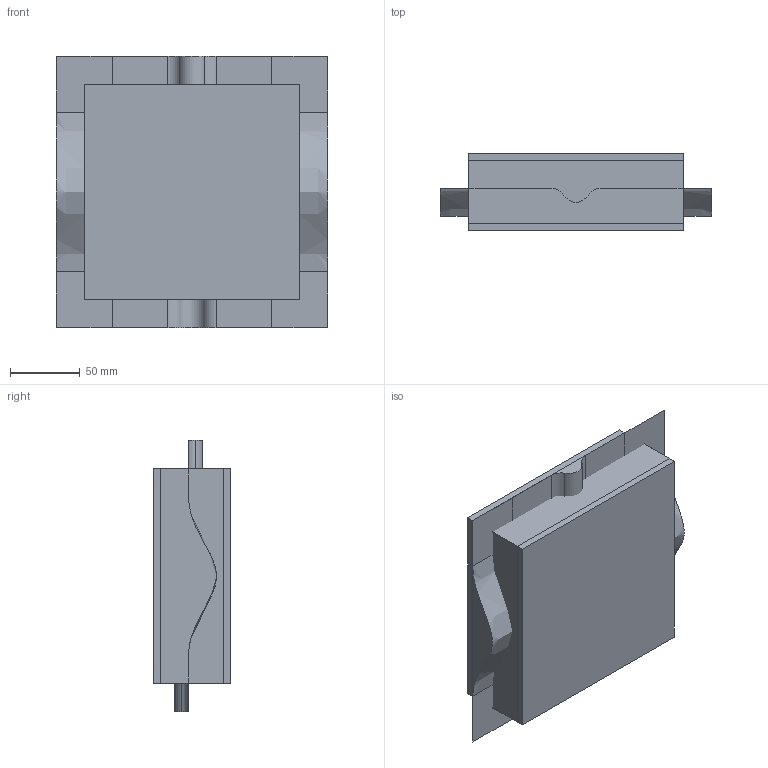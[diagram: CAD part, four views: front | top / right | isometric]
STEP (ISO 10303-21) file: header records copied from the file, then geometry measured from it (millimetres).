
FILE_DESCRIPTION(('CATIA V5 STEP Exchange'),'2;1');
FILE_NAME('C:\_Andres\UNIVERSIDAD\IQS\ASIGNATURAS\DAO\EXF\EXF-16172c\2inicio\Homs_Menis_Ej02_v14.stp','2017-03-05T15:45:24+00:00',('none'),('none'),'CATIA Version 5-6 Release 2014 SP1 HF18','CATIA V5 STEP AP203','none');
FILE_SCHEMA(('CONFIG_CONTROL_DESIGN'));
Length unit declared in the file: millimetre
Products named in the file (1): Homs_Menis_Ej02_v14
Bounding box: 194 x 55 x 194 mm (x, y, z)
Surface area: 241322.4 mm2
Topology: 3 solids, 10 shells, 72 faces, 205 edges, 150 vertices
Faces by surface type: bspline 32, plane 32, cylinder 6, extrusion 2
Entity records: 6734 total; most frequent: CARTESIAN_POINT 5417, ORIENTED_EDGE 288, DIRECTION 151, EDGE_CURVE 132, VERTEX_POINT 84, VECTOR 77, LINE 75, ADVANCED_FACE 72
